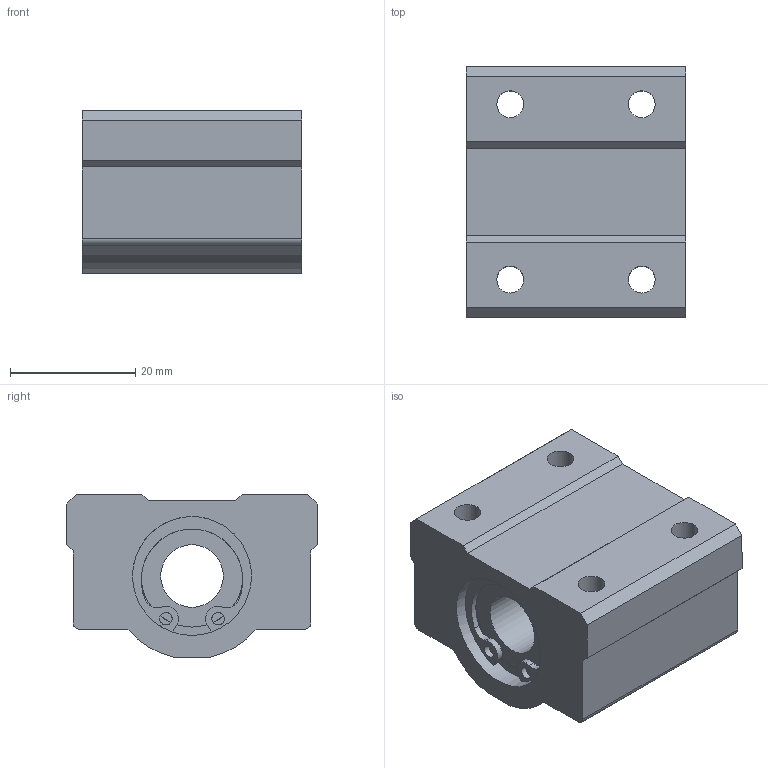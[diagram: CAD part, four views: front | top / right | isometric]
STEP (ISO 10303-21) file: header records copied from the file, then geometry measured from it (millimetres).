
FILE_DESCRIPTION((''),'2;1');
FILE_NAME('D:\製品 (図面)\カタログ用3D\リニアベアリング関連(改)\STEP形式\LH-B\LH10B.stp','2010-01-25T10:18:23',('Tsuchiya'),(''),'Autodesk Inventor 10','Autodesk Inventor 10','');
FILE_SCHEMA(('AUTOMOTIVE_DESIGN { 1 0 10303 214 1 1 1 1 }'));
Length unit declared in the file: millimetre
Products named in the file (1): LH10B
Bounding box: 35 x 40 x 26 mm (x, y, z)
Volume: 25760.8 mm3; surface area: 8752.1 mm2
Topology: 1 solids, 3 shells, 77 faces, 203 edges, 130 vertices
Faces by surface type: plane 40, cylinder 20, bspline 17
Full cylindrical faces by diameter (mm): 2 x2, 10 x1, 16.3 x2, 18 x2, 19 x4
Entity records: 2420 total; most frequent: CARTESIAN_POINT 575, DIRECTION 394, ORIENTED_EDGE 348, EDGE_CURVE 174, AXIS2_PLACEMENT_3D 159, VERTEX_POINT 118, EDGE_LOOP 114, CIRCLE 98
